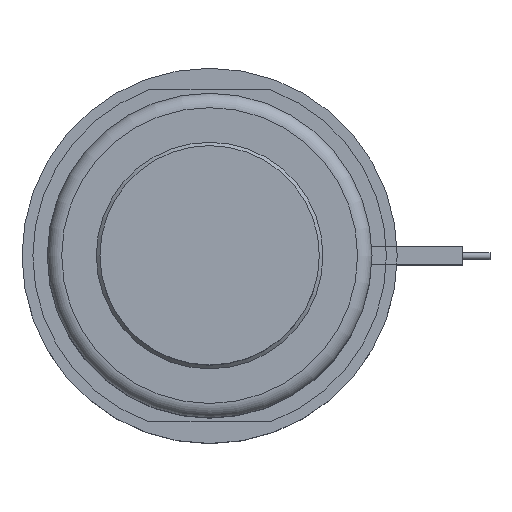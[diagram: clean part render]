
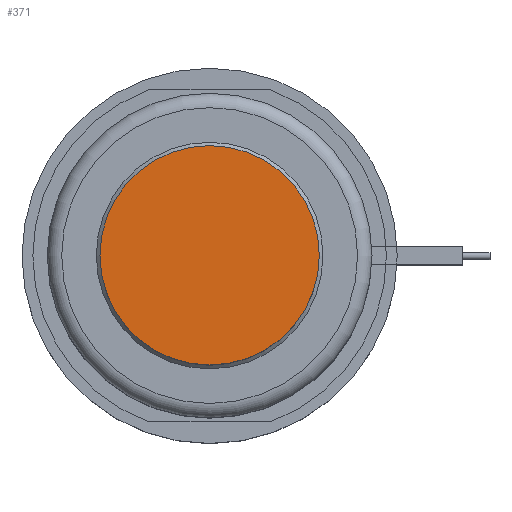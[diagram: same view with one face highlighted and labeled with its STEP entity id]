
A CAD part, top view. The second image highlights one B-rep face of the part: STEP entity #371.
In plain terms, the highlighted planar face has unit normal (0, 0, 1).
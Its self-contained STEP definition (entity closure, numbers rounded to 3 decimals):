
#248=PLANE('',#1350);
#296=FACE_OUTER_BOUND('',#593,.T.);
#371=ADVANCED_FACE('',(#296),#248,.F.);
#593=EDGE_LOOP('',(#743));
#743=ORIENTED_EDGE('',*,*,#1117,.F.);
#1006=VERTEX_POINT('',#1964);
#1117=EDGE_CURVE('',#1006,#1006,#1255,.T.);
#1255=CIRCLE('',#1349,15.2);
#1349=AXIS2_PLACEMENT_3D('',#1963,#1555,#1556);
#1350=AXIS2_PLACEMENT_3D('',#1965,#1557,#1558);
#1555=DIRECTION('',(0.,0.,-1.));
#1556=DIRECTION('',(-1.,0.,0.));
#1557=DIRECTION('',(0.,0.,-1.));
#1558=DIRECTION('',(-1.,0.,0.));
#1963=CARTESIAN_POINT('',(0.,0.,18.));
#1964=CARTESIAN_POINT('',(-15.2,0.,18.));
#1965=CARTESIAN_POINT('',(0.,0.,18.));
